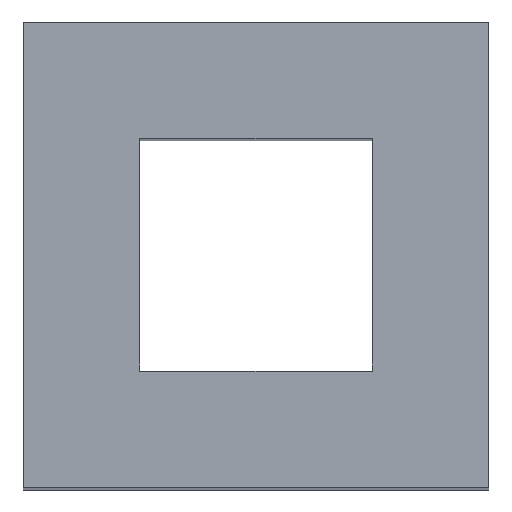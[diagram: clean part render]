
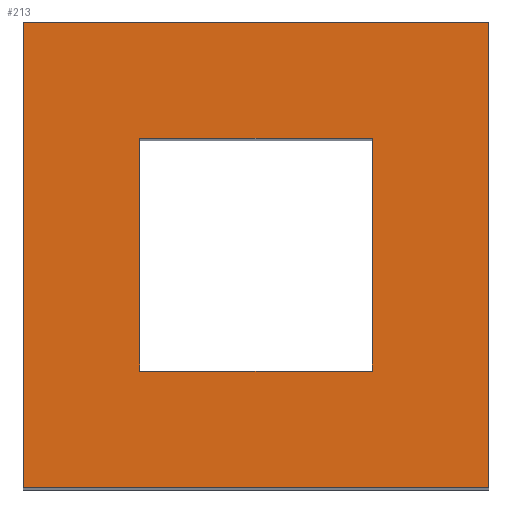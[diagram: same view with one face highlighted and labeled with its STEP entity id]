
A CAD part, top view. The second image highlights one B-rep face of the part: STEP entity #213.
In plain terms, the highlighted planar face has unit normal (0, 0, 1).
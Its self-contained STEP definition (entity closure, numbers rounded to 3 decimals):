
#24 = VERTEX_POINT('',#25);
#25 = CARTESIAN_POINT('',(-334.,60.,43.));
#32 = PLANE('',#33);
#33 = AXIS2_PLACEMENT_3D('',#34,#35,#36);
#34 = CARTESIAN_POINT('',(-334.,60.,4.));
#35 = DIRECTION('',(1.,0.,-0.));
#36 = DIRECTION('',(0.,0.,1.));
#44 = PLANE('',#45);
#45 = AXIS2_PLACEMENT_3D('',#46,#47,#48);
#46 = CARTESIAN_POINT('',(-334.,60.,4.));
#47 = DIRECTION('',(-0.,1.,0.));
#48 = DIRECTION('',(0.,0.,1.));
#85 = VERTEX_POINT('',#86);
#86 = CARTESIAN_POINT('',(-334.,72.,43.));
#100 = PLANE('',#101);
#101 = AXIS2_PLACEMENT_3D('',#102,#103,#104);
#102 = CARTESIAN_POINT('',(-334.,72.,4.));
#103 = DIRECTION('',(-0.,1.,0.));
#104 = DIRECTION('',(0.,0.,1.));
#112 = EDGE_CURVE('',#24,#85,#113,.T.);
#113 = SURFACE_CURVE('',#114,(#118,#125),.PCURVE_S1.);
#114 = LINE('',#115,#116);
#115 = CARTESIAN_POINT('',(-334.,60.,43.));
#116 = VECTOR('',#117,1.);
#117 = DIRECTION('',(-0.,1.,0.));
#118 = PCURVE('',#32,#119);
#119 = DEFINITIONAL_REPRESENTATION('',(#120),#124);
#120 = LINE('',#121,#122);
#121 = CARTESIAN_POINT('',(39.,0.));
#122 = VECTOR('',#123,1.);
#123 = DIRECTION('',(0.,-1.));
#124 = ( GEOMETRIC_REPRESENTATION_CONTEXT(2) 
PARAMETRIC_REPRESENTATION_CONTEXT() REPRESENTATION_CONTEXT('2D SPACE',''
  ) );
#125 = PCURVE('',#126,#131);
#126 = PLANE('',#127);
#127 = AXIS2_PLACEMENT_3D('',#128,#129,#130);
#128 = CARTESIAN_POINT('',(-334.,60.,43.));
#129 = DIRECTION('',(0.,0.,1.));
#130 = DIRECTION('',(1.,0.,-0.));
#131 = DEFINITIONAL_REPRESENTATION('',(#132),#136);
#132 = LINE('',#133,#134);
#133 = CARTESIAN_POINT('',(0.,0.));
#134 = VECTOR('',#135,1.);
#135 = DIRECTION('',(0.,1.));
#136 = ( GEOMETRIC_REPRESENTATION_CONTEXT(2) 
PARAMETRIC_REPRESENTATION_CONTEXT() REPRESENTATION_CONTEXT('2D SPACE',''
  ) );
#165 = EDGE_CURVE('',#24,#166,#168,.T.);
#166 = VERTEX_POINT('',#167);
#167 = CARTESIAN_POINT('',(-322.,60.,43.));
#168 = SURFACE_CURVE('',#169,(#173,#180),.PCURVE_S1.);
#169 = LINE('',#170,#171);
#170 = CARTESIAN_POINT('',(-334.,60.,43.));
#171 = VECTOR('',#172,1.);
#172 = DIRECTION('',(1.,0.,-0.));
#173 = PCURVE('',#44,#174);
#174 = DEFINITIONAL_REPRESENTATION('',(#175),#179);
#175 = LINE('',#176,#177);
#176 = CARTESIAN_POINT('',(39.,0.));
#177 = VECTOR('',#178,1.);
#178 = DIRECTION('',(0.,1.));
#179 = ( GEOMETRIC_REPRESENTATION_CONTEXT(2) 
PARAMETRIC_REPRESENTATION_CONTEXT() REPRESENTATION_CONTEXT('2D SPACE',''
  ) );
#180 = PCURVE('',#126,#181);
#181 = DEFINITIONAL_REPRESENTATION('',(#182),#186);
#182 = LINE('',#183,#184);
#183 = CARTESIAN_POINT('',(0.,0.));
#184 = VECTOR('',#185,1.);
#185 = DIRECTION('',(1.,0.));
#186 = ( GEOMETRIC_REPRESENTATION_CONTEXT(2) 
PARAMETRIC_REPRESENTATION_CONTEXT() REPRESENTATION_CONTEXT('2D SPACE',''
  ) );
#202 = PLANE('',#203);
#203 = AXIS2_PLACEMENT_3D('',#204,#205,#206);
#204 = CARTESIAN_POINT('',(-322.,60.,4.));
#205 = DIRECTION('',(1.,0.,-0.));
#206 = DIRECTION('',(0.,0.,1.));
#213 = ADVANCED_FACE('',(#214,#262),#126,.T.);
#214 = FACE_BOUND('',#215,.T.);
#215 = EDGE_LOOP('',(#216,#217,#218,#241));
#216 = ORIENTED_EDGE('',*,*,#112,.F.);
#217 = ORIENTED_EDGE('',*,*,#165,.T.);
#218 = ORIENTED_EDGE('',*,*,#219,.T.);
#219 = EDGE_CURVE('',#166,#220,#222,.T.);
#220 = VERTEX_POINT('',#221);
#221 = CARTESIAN_POINT('',(-322.,72.,43.));
#222 = SURFACE_CURVE('',#223,(#227,#234),.PCURVE_S1.);
#223 = LINE('',#224,#225);
#224 = CARTESIAN_POINT('',(-322.,60.,43.));
#225 = VECTOR('',#226,1.);
#226 = DIRECTION('',(-0.,1.,0.));
#227 = PCURVE('',#126,#228);
#228 = DEFINITIONAL_REPRESENTATION('',(#229),#233);
#229 = LINE('',#230,#231);
#230 = CARTESIAN_POINT('',(12.,0.));
#231 = VECTOR('',#232,1.);
#232 = DIRECTION('',(0.,1.));
#233 = ( GEOMETRIC_REPRESENTATION_CONTEXT(2) 
PARAMETRIC_REPRESENTATION_CONTEXT() REPRESENTATION_CONTEXT('2D SPACE',''
  ) );
#234 = PCURVE('',#202,#235);
#235 = DEFINITIONAL_REPRESENTATION('',(#236),#240);
#236 = LINE('',#237,#238);
#237 = CARTESIAN_POINT('',(39.,0.));
#238 = VECTOR('',#239,1.);
#239 = DIRECTION('',(0.,-1.));
#240 = ( GEOMETRIC_REPRESENTATION_CONTEXT(2) 
PARAMETRIC_REPRESENTATION_CONTEXT() REPRESENTATION_CONTEXT('2D SPACE',''
  ) );
#241 = ORIENTED_EDGE('',*,*,#242,.F.);
#242 = EDGE_CURVE('',#85,#220,#243,.T.);
#243 = SURFACE_CURVE('',#244,(#248,#255),.PCURVE_S1.);
#244 = LINE('',#245,#246);
#245 = CARTESIAN_POINT('',(-334.,72.,43.));
#246 = VECTOR('',#247,1.);
#247 = DIRECTION('',(1.,0.,-0.));
#248 = PCURVE('',#126,#249);
#249 = DEFINITIONAL_REPRESENTATION('',(#250),#254);
#250 = LINE('',#251,#252);
#251 = CARTESIAN_POINT('',(0.,12.));
#252 = VECTOR('',#253,1.);
#253 = DIRECTION('',(1.,0.));
#254 = ( GEOMETRIC_REPRESENTATION_CONTEXT(2) 
PARAMETRIC_REPRESENTATION_CONTEXT() REPRESENTATION_CONTEXT('2D SPACE',''
  ) );
#255 = PCURVE('',#100,#256);
#256 = DEFINITIONAL_REPRESENTATION('',(#257),#261);
#257 = LINE('',#258,#259);
#258 = CARTESIAN_POINT('',(39.,0.));
#259 = VECTOR('',#260,1.);
#260 = DIRECTION('',(0.,1.));
#261 = ( GEOMETRIC_REPRESENTATION_CONTEXT(2) 
PARAMETRIC_REPRESENTATION_CONTEXT() REPRESENTATION_CONTEXT('2D SPACE',''
  ) );
#262 = FACE_BOUND('',#263,.T.);
#263 = EDGE_LOOP('',(#264,#292,#318,#344));
#264 = ORIENTED_EDGE('',*,*,#265,.T.);
#265 = EDGE_CURVE('',#266,#268,#270,.T.);
#266 = VERTEX_POINT('',#267);
#267 = CARTESIAN_POINT('',(-325.,63.,43.));
#268 = VERTEX_POINT('',#269);
#269 = CARTESIAN_POINT('',(-331.,63.,43.));
#270 = SURFACE_CURVE('',#271,(#275,#281),.PCURVE_S1.);
#271 = LINE('',#272,#273);
#272 = CARTESIAN_POINT('',(-332.5,63.,43.));
#273 = VECTOR('',#274,1.);
#274 = DIRECTION('',(-1.,-0.,0.));
#275 = PCURVE('',#126,#276);
#276 = DEFINITIONAL_REPRESENTATION('',(#277),#280);
#277 = B_SPLINE_CURVE_WITH_KNOTS('',1,(#278,#279),.UNSPECIFIED.,.F.,.F.,
  (2,2),(-7.5,-1.5),.PIECEWISE_BEZIER_KNOTS.);
#278 = CARTESIAN_POINT('',(9.,3.));
#279 = CARTESIAN_POINT('',(3.,3.));
#280 = ( GEOMETRIC_REPRESENTATION_CONTEXT(2) 
PARAMETRIC_REPRESENTATION_CONTEXT() REPRESENTATION_CONTEXT('2D SPACE',''
  ) );
#281 = PCURVE('',#282,#287);
#282 = PLANE('',#283);
#283 = AXIS2_PLACEMENT_3D('',#284,#285,#286);
#284 = CARTESIAN_POINT('',(-331.,63.,3.));
#285 = DIRECTION('',(-0.,1.,0.));
#286 = DIRECTION('',(0.,0.,1.));
#287 = DEFINITIONAL_REPRESENTATION('',(#288),#291);
#288 = B_SPLINE_CURVE_WITH_KNOTS('',1,(#289,#290),.UNSPECIFIED.,.F.,.F.,
  (2,2),(-7.5,-1.5),.PIECEWISE_BEZIER_KNOTS.);
#289 = CARTESIAN_POINT('',(40.,6.));
#290 = CARTESIAN_POINT('',(40.,0.));
#291 = ( GEOMETRIC_REPRESENTATION_CONTEXT(2) 
PARAMETRIC_REPRESENTATION_CONTEXT() REPRESENTATION_CONTEXT('2D SPACE',''
  ) );
#292 = ORIENTED_EDGE('',*,*,#293,.T.);
#293 = EDGE_CURVE('',#268,#294,#296,.T.);
#294 = VERTEX_POINT('',#295);
#295 = CARTESIAN_POINT('',(-331.,69.,43.));
#296 = SURFACE_CURVE('',#297,(#301,#307),.PCURVE_S1.);
#297 = LINE('',#298,#299);
#298 = CARTESIAN_POINT('',(-331.,61.5,43.));
#299 = VECTOR('',#300,1.);
#300 = DIRECTION('',(-0.,1.,0.));
#301 = PCURVE('',#126,#302);
#302 = DEFINITIONAL_REPRESENTATION('',(#303),#306);
#303 = B_SPLINE_CURVE_WITH_KNOTS('',1,(#304,#305),.UNSPECIFIED.,.F.,.F.,
  (2,2),(1.5,7.5),.PIECEWISE_BEZIER_KNOTS.);
#304 = CARTESIAN_POINT('',(3.,3.));
#305 = CARTESIAN_POINT('',(3.,9.));
#306 = ( GEOMETRIC_REPRESENTATION_CONTEXT(2) 
PARAMETRIC_REPRESENTATION_CONTEXT() REPRESENTATION_CONTEXT('2D SPACE',''
  ) );
#307 = PCURVE('',#308,#313);
#308 = PLANE('',#309);
#309 = AXIS2_PLACEMENT_3D('',#310,#311,#312);
#310 = CARTESIAN_POINT('',(-331.,63.,3.));
#311 = DIRECTION('',(1.,0.,-0.));
#312 = DIRECTION('',(0.,0.,1.));
#313 = DEFINITIONAL_REPRESENTATION('',(#314),#317);
#314 = B_SPLINE_CURVE_WITH_KNOTS('',1,(#315,#316),.UNSPECIFIED.,.F.,.F.,
  (2,2),(1.5,7.5),.PIECEWISE_BEZIER_KNOTS.);
#315 = CARTESIAN_POINT('',(40.,0.));
#316 = CARTESIAN_POINT('',(40.,-6.));
#317 = ( GEOMETRIC_REPRESENTATION_CONTEXT(2) 
PARAMETRIC_REPRESENTATION_CONTEXT() REPRESENTATION_CONTEXT('2D SPACE',''
  ) );
#318 = ORIENTED_EDGE('',*,*,#319,.F.);
#319 = EDGE_CURVE('',#320,#294,#322,.T.);
#320 = VERTEX_POINT('',#321);
#321 = CARTESIAN_POINT('',(-325.,69.,43.));
#322 = SURFACE_CURVE('',#323,(#327,#333),.PCURVE_S1.);
#323 = LINE('',#324,#325);
#324 = CARTESIAN_POINT('',(-332.5,69.,43.));
#325 = VECTOR('',#326,1.);
#326 = DIRECTION('',(-1.,-0.,0.));
#327 = PCURVE('',#126,#328);
#328 = DEFINITIONAL_REPRESENTATION('',(#329),#332);
#329 = B_SPLINE_CURVE_WITH_KNOTS('',1,(#330,#331),.UNSPECIFIED.,.F.,.F.,
  (2,2),(-7.5,-1.5),.PIECEWISE_BEZIER_KNOTS.);
#330 = CARTESIAN_POINT('',(9.,9.));
#331 = CARTESIAN_POINT('',(3.,9.));
#332 = ( GEOMETRIC_REPRESENTATION_CONTEXT(2) 
PARAMETRIC_REPRESENTATION_CONTEXT() REPRESENTATION_CONTEXT('2D SPACE',''
  ) );
#333 = PCURVE('',#334,#339);
#334 = PLANE('',#335);
#335 = AXIS2_PLACEMENT_3D('',#336,#337,#338);
#336 = CARTESIAN_POINT('',(-331.,69.,3.));
#337 = DIRECTION('',(-0.,1.,0.));
#338 = DIRECTION('',(0.,0.,1.));
#339 = DEFINITIONAL_REPRESENTATION('',(#340),#343);
#340 = B_SPLINE_CURVE_WITH_KNOTS('',1,(#341,#342),.UNSPECIFIED.,.F.,.F.,
  (2,2),(-7.5,-1.5),.PIECEWISE_BEZIER_KNOTS.);
#341 = CARTESIAN_POINT('',(40.,6.));
#342 = CARTESIAN_POINT('',(40.,0.));
#343 = ( GEOMETRIC_REPRESENTATION_CONTEXT(2) 
PARAMETRIC_REPRESENTATION_CONTEXT() REPRESENTATION_CONTEXT('2D SPACE',''
  ) );
#344 = ORIENTED_EDGE('',*,*,#345,.F.);
#345 = EDGE_CURVE('',#266,#320,#346,.T.);
#346 = SURFACE_CURVE('',#347,(#351,#357),.PCURVE_S1.);
#347 = LINE('',#348,#349);
#348 = CARTESIAN_POINT('',(-325.,61.5,43.));
#349 = VECTOR('',#350,1.);
#350 = DIRECTION('',(-0.,1.,0.));
#351 = PCURVE('',#126,#352);
#352 = DEFINITIONAL_REPRESENTATION('',(#353),#356);
#353 = B_SPLINE_CURVE_WITH_KNOTS('',1,(#354,#355),.UNSPECIFIED.,.F.,.F.,
  (2,2),(1.5,7.5),.PIECEWISE_BEZIER_KNOTS.);
#354 = CARTESIAN_POINT('',(9.,3.));
#355 = CARTESIAN_POINT('',(9.,9.));
#356 = ( GEOMETRIC_REPRESENTATION_CONTEXT(2) 
PARAMETRIC_REPRESENTATION_CONTEXT() REPRESENTATION_CONTEXT('2D SPACE',''
  ) );
#357 = PCURVE('',#358,#363);
#358 = PLANE('',#359);
#359 = AXIS2_PLACEMENT_3D('',#360,#361,#362);
#360 = CARTESIAN_POINT('',(-325.,63.,3.));
#361 = DIRECTION('',(1.,0.,-0.));
#362 = DIRECTION('',(0.,0.,1.));
#363 = DEFINITIONAL_REPRESENTATION('',(#364),#367);
#364 = B_SPLINE_CURVE_WITH_KNOTS('',1,(#365,#366),.UNSPECIFIED.,.F.,.F.,
  (2,2),(1.5,7.5),.PIECEWISE_BEZIER_KNOTS.);
#365 = CARTESIAN_POINT('',(40.,0.));
#366 = CARTESIAN_POINT('',(40.,-6.));
#367 = ( GEOMETRIC_REPRESENTATION_CONTEXT(2) 
PARAMETRIC_REPRESENTATION_CONTEXT() REPRESENTATION_CONTEXT('2D SPACE',''
  ) );
